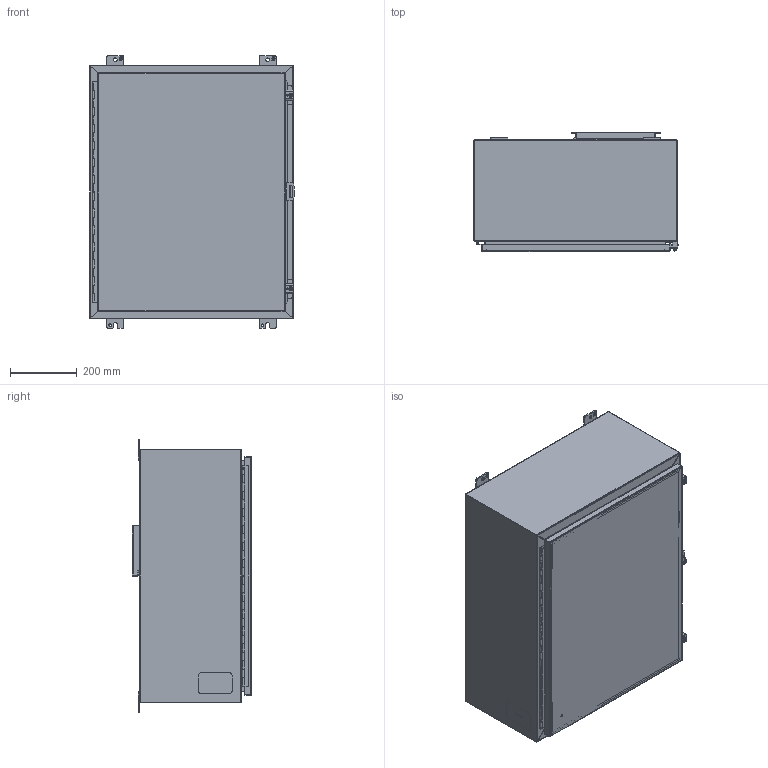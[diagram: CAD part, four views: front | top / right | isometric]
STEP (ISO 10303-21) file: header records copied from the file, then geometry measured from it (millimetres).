
FILE_DESCRIPTION(/* description */ ('Unknown'),/* implementation_level */ '2;1');
FILE_NAME(/* name */ '1418K12LP',/* time_stamp */ '2026-02-20T16:32:31-05:00',/* author */ ('Unknown'),/* organization */ ('Unknown'),/* preprocessor_version */ 'ST-DEVELOPER v18.104',/* originating_system */ 'Solid Edge',/* authorisation */ 'Unknown');
FILE_SCHEMA (('AUTOMOTIVE_DESIGN {1 0 10303 214 3 1 1}'));
Length unit declared in the file: millimetre
Products named in the file (31): 1418K12LP; STD26094; KIT90256; LAB30005; NTS165305; NTS16535; STD21878; COM42780; KIT90518; WAF25059; NTS166105; HNG10620-26B; COM40153-1; HNG10620-26P; COM71780-17; COM40153-2; COM70219_oa_0; HNG10620-26C; PNT11078; COM48459; FET07710; AKT90223; SPR20265; SCC19011; WAF25035; COM42667; BUL10020; QLB30109; PKT99; COM48509
Assembly tree (42 placements, depth 3):
  1418K12LP
    STD26094  x4
    KIT90256
      LAB30005
      NTS165305
      NTS16535
    STD21878
    COM42780  x2
    KIT90518
      WAF25059
      NTS166105
      LAB30005
    HNG10620-26B
    COM40153-1
    HNG10620-26P
    COM71780-17
      COM40153-2
      COM70219_oa_0
      HNG10620-26C
      COM71780-17
      STD21878
      PNT11078
    COM48459
    FET07710  x4
    PNT11078
    AKT90223  x2
      SPR20265
      SCC19011
      WAF25035
      COM42667
    BUL10020
    QLB30109
    PKT99
    COM48509  x2
Bounding box: 612.77 x 358.77 x 819.15 mm (x, y, z)
Volume: 3891153 mm3; surface area: 4201009.5 mm2
Topology: 36 solids, 37 shells, 1213 faces, 3143 edges, 2038 vertices
Faces by surface type: plane 794, cylinder 314, bspline 57, cone 26, torus 20, sphere 2
Full cylindrical faces by diameter (mm): 3.175 x1, 4.763 x1, 4.976 x1, 5.41 x2, 6.198 x2, 6.35 x3, 6.731 x2, 7.137 x2, 7.805 x1, 7.938 x4, 8.382 x4, 9.525 x4, 9.906 x2, 11.113 x4, 11.303 x1, 12.7 x2, 16.51 x4, 25.4 x1, 88.9 x1
Entity records: 29720 total; most frequent: CARTESIAN_POINT 7971, ORIENTED_EDGE 4364, DIRECTION 4113, EDGE_CURVE 2182, LINE 1463, VECTOR 1463, VERTEX_POINT 1429, AXIS2_PLACEMENT_3D 1325
